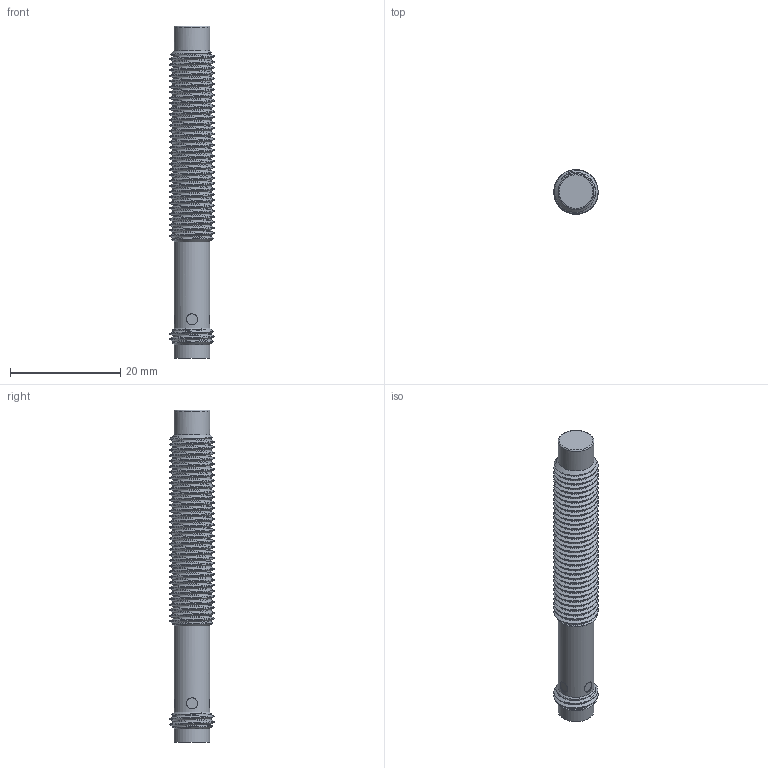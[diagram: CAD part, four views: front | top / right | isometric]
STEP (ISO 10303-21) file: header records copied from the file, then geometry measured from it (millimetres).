
FILE_DESCRIPTION(/* description */ (''),/* implementation_level */ '2;1');
FILE_NAME(/* name */ '电感式M8x60露出接头.stp',/* time_stamp */ '2025-04-15T11:08:46+08:00',/* author */ (''),/* organization */ (''),/* preprocessor_version */ 'ST-DEVELOPER v16.7',/* originating_system */ 'SIEMENS PLM Software NX 1872',/* authorisation */ '');
FILE_SCHEMA (('AP203_CONFIGURATION_CONTROLLED_3D_DESIGN_OF_MECHANICAL_PARTS_AND_ASSEMBLIES_MIM_LF { 1 0 10303 403 2 1 2}'));
Length unit declared in the file: millimetre
Products named in the file (1): 电感式M8x60露出接头
Bounding box: 8 x 8 x 60.1 mm (x, y, z)
Volume: 2252.8 mm3; surface area: 2041.7 mm2
Topology: 1 solids, 1 shells, 36 faces, 88 edges, 58 vertices
Faces by surface type: cylinder 15, plane 7, cone 6, bspline 4, sphere 3, torus 1
Full cylindrical faces by diameter (mm): 1 x3, 2 x4, 5.85 x1, 6.5 x3
Entity records: 11991 total; most frequent: CARTESIAN_POINT 11327, DIRECTION 114, ORIENTED_EDGE 94, EDGE_LOOP 58, AXIS2_PLACEMENT_3D 57, EDGE_CURVE 47, FACE_BOUND 42, VERTEX_POINT 39
